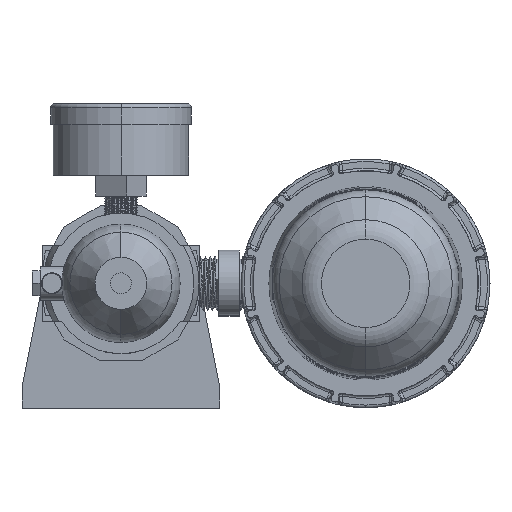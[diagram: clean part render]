
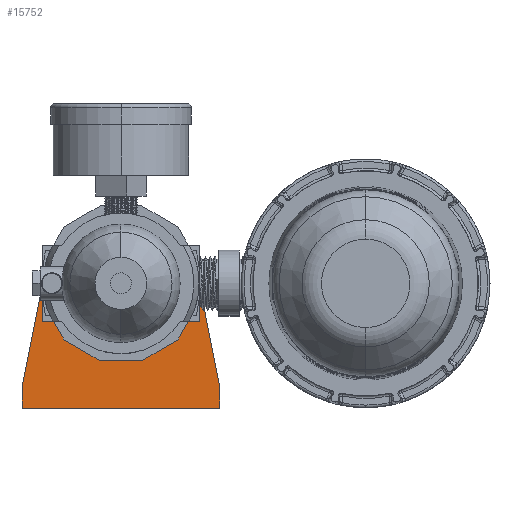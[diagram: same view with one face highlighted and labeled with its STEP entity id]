
A CAD part, front view. The second image highlights one B-rep face of the part: STEP entity #15752.
In plain terms, the highlighted planar face has unit normal (0, -1, 0).
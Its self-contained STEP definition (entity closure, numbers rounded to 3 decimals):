
#227 = LINE ( 'NONE', #4114, #7865 ) ;
#1640 = ORIENTED_EDGE ( 'NONE', *, *, #17363, .F. ) ;
#2567 = ORIENTED_EDGE ( 'NONE', *, *, #13251, .F. ) ;
#3008 = AXIS2_PLACEMENT_3D ( 'NONE', #31494, #35272, #18822 ) ;
#3078 = AXIS2_PLACEMENT_3D ( 'NONE', #15918, #23623, #15556 ) ;
#4114 = CARTESIAN_POINT ( 'NONE',  ( -38., 0., -48. ) ) ;
#5182 = VERTEX_POINT ( 'NONE', #35688 ) ;
#5499 = CIRCLE ( 'NONE', #18066, 24. ) ;
#5857 = VERTEX_POINT ( 'NONE', #16169 ) ;
#7275 = LINE ( 'NONE', #21072, #15595 ) ;
#7865 = VECTOR ( 'NONE', #36892, 1000. ) ;
#8693 = CARTESIAN_POINT ( 'NONE',  ( 38., 0., -48. ) ) ;
#9384 = LINE ( 'NONE', #21476, #47222 ) ;
#10339 = CIRCLE ( 'NONE', #3078, 24. ) ;
#10459 = ORIENTED_EDGE ( 'NONE', *, *, #48019, .F. ) ;
#10645 = DIRECTION ( 'NONE',  ( 0., 1., 0. ) ) ;
#11983 = EDGE_CURVE ( 'NONE', #15934, #28588, #7275, .T. ) ;
#13251 = EDGE_CURVE ( 'NONE', #5182, #15934, #52753, .T. ) ;
#13295 = ORIENTED_EDGE ( 'NONE', *, *, #23451, .F. ) ;
#15556 = DIRECTION ( 'NONE',  ( 0., 0., 1. ) ) ;
#15595 = VECTOR ( 'NONE', #33071, 1000. ) ;
#15752 = ADVANCED_FACE ( 'NONE', ( #39751, #44890 ), #49619, .F. ) ;
#15918 = CARTESIAN_POINT ( 'NONE',  ( 0., 0., 0. ) ) ;
#15934 = VERTEX_POINT ( 'NONE', #26153 ) ;
#16169 = CARTESIAN_POINT ( 'NONE',  ( -38., 0., -40. ) ) ;
#17017 = VERTEX_POINT ( 'NONE', #27521 ) ;
#17363 = EDGE_CURVE ( 'NONE', #51631, #5857, #20433, .T. ) ;
#18066 = AXIS2_PLACEMENT_3D ( 'NONE', #31928, #10645, #27131 ) ;
#18294 = ORIENTED_EDGE ( 'NONE', *, *, #33093, .T. ) ;
#18822 = DIRECTION ( 'NONE',  ( 0., 0., 1. ) ) ;
#20081 = LINE ( 'NONE', #35541, #51485 ) ;
#20433 = LINE ( 'NONE', #35240, #31318 ) ;
#20501 = CARTESIAN_POINT ( 'NONE',  ( 0., 0., 24. ) ) ;
#21072 = CARTESIAN_POINT ( 'NONE',  ( 38., 0., -40. ) ) ;
#21476 = CARTESIAN_POINT ( 'NONE',  ( -38., 0., -40. ) ) ;
#23160 = EDGE_CURVE ( 'NONE', #28041, #51631, #227, .T. ) ;
#23451 = EDGE_CURVE ( 'NONE', #28588, #28041, #20081, .T. ) ;
#23623 = DIRECTION ( 'NONE',  ( 0., 1., 0. ) ) ;
#25192 = EDGE_LOOP ( 'NONE', ( #10459, #1640, #51486, #13295, #39330, #2567 ) ) ;
#25276 = CARTESIAN_POINT ( 'NONE',  ( 0., 0., 0. ) ) ;
#26153 = CARTESIAN_POINT ( 'NONE',  ( 28.937, 0., 5.734 ) ) ;
#27131 = DIRECTION ( 'NONE',  ( 0., 0., 1. ) ) ;
#27521 = CARTESIAN_POINT ( 'NONE',  ( 0., 0., -24. ) ) ;
#28041 = VERTEX_POINT ( 'NONE', #8693 ) ;
#28588 = VERTEX_POINT ( 'NONE', #37406 ) ;
#29007 = CARTESIAN_POINT ( 'NONE',  ( -38., 0., -48. ) ) ;
#31318 = VECTOR ( 'NONE', #39325, 1000. ) ;
#31494 = CARTESIAN_POINT ( 'NONE',  ( 0., 0., 0. ) ) ;
#31573 = AXIS2_PLACEMENT_3D ( 'NONE', #25276, #37582, #41548 ) ;
#31928 = CARTESIAN_POINT ( 'NONE',  ( 0., 0., 0. ) ) ;
#32320 = VERTEX_POINT ( 'NONE', #20501 ) ;
#33071 = DIRECTION ( 'NONE',  ( 0.194, 0., -0.981 ) ) ;
#33093 = EDGE_CURVE ( 'NONE', #17017, #32320, #10339, .T. ) ;
#35240 = CARTESIAN_POINT ( 'NONE',  ( -38., 0., -48. ) ) ;
#35272 = DIRECTION ( 'NONE',  ( 0., 1., 0. ) ) ;
#35541 = CARTESIAN_POINT ( 'NONE',  ( 38., 0., -48. ) ) ;
#35688 = CARTESIAN_POINT ( 'NONE',  ( -28.937, 0., 5.734 ) ) ;
#36415 = DIRECTION ( 'NONE',  ( 0., 0., -1. ) ) ;
#36892 = DIRECTION ( 'NONE',  ( -1., 0., 0. ) ) ;
#37224 = EDGE_CURVE ( 'NONE', #32320, #17017, #5499, .T. ) ;
#37406 = CARTESIAN_POINT ( 'NONE',  ( 38., 0., -40. ) ) ;
#37582 = DIRECTION ( 'NONE',  ( 0., 1., 0. ) ) ;
#39325 = DIRECTION ( 'NONE',  ( 0., 0., 1. ) ) ;
#39330 = ORIENTED_EDGE ( 'NONE', *, *, #11983, .F. ) ;
#39751 = FACE_BOUND ( 'NONE', #50687, .T. ) ;
#41548 = DIRECTION ( 'NONE',  ( 0., 0., 1. ) ) ;
#42245 = DIRECTION ( 'NONE',  ( 0.194, 0., 0.981 ) ) ;
#44890 = FACE_OUTER_BOUND ( 'NONE', #25192, .T. ) ;
#47222 = VECTOR ( 'NONE', #42245, 1000. ) ;
#48019 = EDGE_CURVE ( 'NONE', #5857, #5182, #9384, .T. ) ;
#49333 = ORIENTED_EDGE ( 'NONE', *, *, #37224, .T. ) ;
#49619 = PLANE ( 'NONE',  #31573 ) ;
#50687 = EDGE_LOOP ( 'NONE', ( #49333, #18294 ) ) ;
#51485 = VECTOR ( 'NONE', #36415, 1000. ) ;
#51486 = ORIENTED_EDGE ( 'NONE', *, *, #23160, .F. ) ;
#51631 = VERTEX_POINT ( 'NONE', #29007 ) ;
#52753 = CIRCLE ( 'NONE', #3008, 29.5 ) ;
